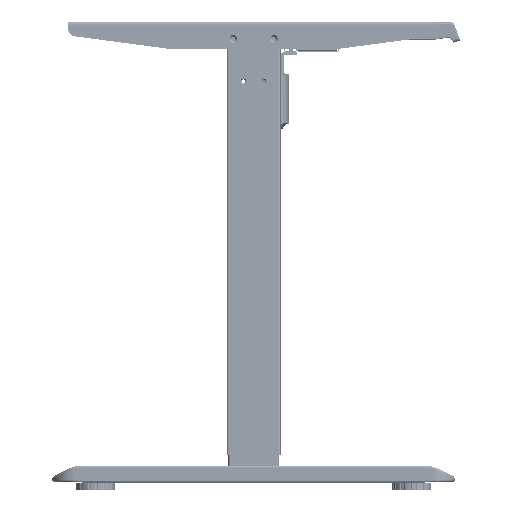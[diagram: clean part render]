
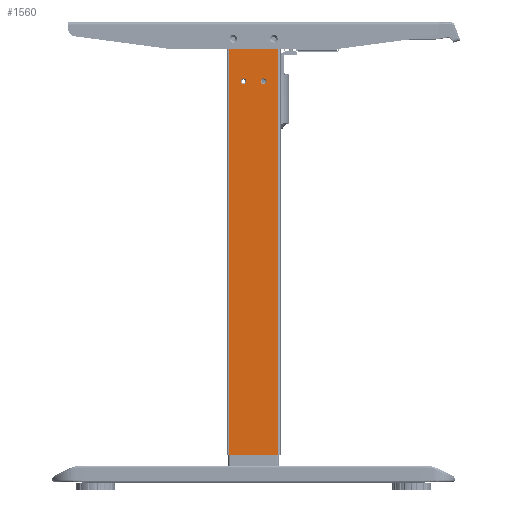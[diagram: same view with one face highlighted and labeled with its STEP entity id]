
A CAD part, front view. The second image highlights one B-rep face of the part: STEP entity #1560.
In plain terms, the highlighted planar face has unit normal (0, -1, 0).
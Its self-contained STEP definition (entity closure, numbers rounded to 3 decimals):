
#204=CARTESIAN_POINT('Vertex',(-19.25,-25.,-80.)) ;
#207=CARTESIAN_POINT('Axis2P3D Location',(-15.,-25.,-80.)) ;
#211=CARTESIAN_POINT('Vertex',(-10.75,-25.,-80.)) ;
#238=CARTESIAN_POINT('Axis2P3D Location',(-15.,-25.,-80.)) ;
#398=CARTESIAN_POINT('Line Origine',(37.,-25.,-302.5)) ;
#402=CARTESIAN_POINT('Vertex',(37.,-25.,0.)) ;
#404=CARTESIAN_POINT('Vertex',(37.,-25.,-635.)) ;
#438=CARTESIAN_POINT('Line Origine',(0.,-25.,0.)) ;
#442=CARTESIAN_POINT('Vertex',(-37.,-25.,0.)) ;
#526=CARTESIAN_POINT('Line Origine',(-37.,-25.,-302.5)) ;
#530=CARTESIAN_POINT('Vertex',(-37.,-25.,-635.)) ;
#557=CARTESIAN_POINT('Line Origine',(0.,-25.,-635.)) ;
#646=CARTESIAN_POINT('Vertex',(19.25,-25.,-80.)) ;
#649=CARTESIAN_POINT('Axis2P3D Location',(15.,-25.,-80.)) ;
#653=CARTESIAN_POINT('Vertex',(10.75,-25.,-80.)) ;
#673=CARTESIAN_POINT('Axis2P3D Location',(15.,-25.,-80.)) ;
#1437=CARTESIAN_POINT('Vertex',(25.5,-25.,-17.)) ;
#1440=CARTESIAN_POINT('Axis2P3D Location',(30.,-25.,-17.)) ;
#1444=CARTESIAN_POINT('Vertex',(34.5,-25.,-17.)) ;
#1464=CARTESIAN_POINT('Axis2P3D Location',(30.,-25.,-17.)) ;
#1519=CARTESIAN_POINT('Axis2P3D Location',(40.,-25.,0.)) ;
#1530=CARTESIAN_POINT('Axis2P3D Location',(-30.,-25.,-17.)) ;
#1534=CARTESIAN_POINT('Vertex',(-34.5,-25.,-17.)) ;
#1536=CARTESIAN_POINT('Vertex',(-25.5,-25.,-17.)) ;
#1539=CARTESIAN_POINT('Axis2P3D Location',(-30.,-25.,-17.)) ;
#208=DIRECTION('Axis2P3D Direction',(0.,-1.,0.)) ;
#239=DIRECTION('Axis2P3D Direction',(0.,-1.,0.)) ;
#399=DIRECTION('Vector Direction',(0.,0.,-1.)) ;
#439=DIRECTION('Vector Direction',(-1.,0.,0.)) ;
#527=DIRECTION('Vector Direction',(0.,0.,-1.)) ;
#558=DIRECTION('Vector Direction',(1.,0.,0.)) ;
#650=DIRECTION('Axis2P3D Direction',(0.,-1.,0.)) ;
#674=DIRECTION('Axis2P3D Direction',(-0.,-1.,-0.)) ;
#1441=DIRECTION('Axis2P3D Direction',(-0.,-1.,0.)) ;
#1465=DIRECTION('Axis2P3D Direction',(0.,-1.,-0.)) ;
#1520=DIRECTION('Axis2P3D Direction',(-0.,-1.,-0.)) ;
#1521=DIRECTION('Axis2P3D XDirection',(-1.,0.,0.)) ;
#1531=DIRECTION('Axis2P3D Direction',(-0.,-1.,-0.)) ;
#1540=DIRECTION('Axis2P3D Direction',(-0.,-1.,-0.)) ;
#209=AXIS2_PLACEMENT_3D('Circle Axis2P3D',#207,#208,$) ;
#240=AXIS2_PLACEMENT_3D('Circle Axis2P3D',#238,#239,$) ;
#651=AXIS2_PLACEMENT_3D('Circle Axis2P3D',#649,#650,$) ;
#675=AXIS2_PLACEMENT_3D('Circle Axis2P3D',#673,#674,$) ;
#1442=AXIS2_PLACEMENT_3D('Circle Axis2P3D',#1440,#1441,$) ;
#1466=AXIS2_PLACEMENT_3D('Circle Axis2P3D',#1464,#1465,$) ;
#1522=AXIS2_PLACEMENT_3D('Plane Axis2P3D',#1519,#1520,#1521) ;
#1532=AXIS2_PLACEMENT_3D('Circle Axis2P3D',#1530,#1531,$) ;
#1541=AXIS2_PLACEMENT_3D('Circle Axis2P3D',#1539,#1540,$) ;
#1525=ORIENTED_EDGE('',*,*,#406,.F.) ;
#1526=ORIENTED_EDGE('',*,*,#444,.F.) ;
#1527=ORIENTED_EDGE('',*,*,#532,.T.) ;
#1528=ORIENTED_EDGE('',*,*,#561,.T.) ;
#1545=ORIENTED_EDGE('',*,*,#1538,.F.) ;
#1546=ORIENTED_EDGE('',*,*,#1543,.F.) ;
#1549=ORIENTED_EDGE('',*,*,#1468,.F.) ;
#1550=ORIENTED_EDGE('',*,*,#1446,.F.) ;
#1553=ORIENTED_EDGE('',*,*,#655,.F.) ;
#1554=ORIENTED_EDGE('',*,*,#677,.F.) ;
#1557=ORIENTED_EDGE('',*,*,#213,.F.) ;
#1558=ORIENTED_EDGE('',*,*,#242,.F.) ;
#1547=FACE_BOUND('',#1544,.T.) ;
#1551=FACE_BOUND('',#1548,.T.) ;
#1555=FACE_BOUND('',#1552,.T.) ;
#1559=FACE_BOUND('',#1556,.T.) ;
#400=VECTOR('Line Direction',#399,1.) ;
#440=VECTOR('Line Direction',#439,1.) ;
#528=VECTOR('Line Direction',#527,1.) ;
#559=VECTOR('Line Direction',#558,1.) ;
#1560=ADVANCED_FACE('\X2\96F64EF651E04F554F53\X0\',(#1529,#1547,#1551,#1555,#1559),#1523,.T.) ;
#210=CIRCLE('generated circle',#209,4.25) ;
#241=CIRCLE('generated circle',#240,4.25) ;
#652=CIRCLE('generated circle',#651,4.25) ;
#676=CIRCLE('generated circle',#675,4.25) ;
#1443=CIRCLE('generated circle',#1442,4.5) ;
#1467=CIRCLE('generated circle',#1466,4.5) ;
#1533=CIRCLE('generated circle',#1532,4.5) ;
#1542=CIRCLE('generated circle',#1541,4.5) ;
#213=EDGE_CURVE('',#205,#212,#210,.T.) ;
#242=EDGE_CURVE('',#212,#205,#241,.T.) ;
#406=EDGE_CURVE('',#403,#405,#401,.T.) ;
#444=EDGE_CURVE('',#443,#403,#441,.F.) ;
#532=EDGE_CURVE('',#443,#531,#529,.T.) ;
#561=EDGE_CURVE('',#531,#405,#560,.T.) ;
#655=EDGE_CURVE('',#647,#654,#652,.T.) ;
#677=EDGE_CURVE('',#654,#647,#676,.T.) ;
#1446=EDGE_CURVE('',#1438,#1445,#1443,.T.) ;
#1468=EDGE_CURVE('',#1445,#1438,#1467,.T.) ;
#1538=EDGE_CURVE('',#1535,#1537,#1533,.T.) ;
#1543=EDGE_CURVE('',#1537,#1535,#1542,.T.) ;
#1524=EDGE_LOOP('',(#1525,#1526,#1527,#1528)) ;
#1544=EDGE_LOOP('',(#1545,#1546)) ;
#1548=EDGE_LOOP('',(#1549,#1550)) ;
#1552=EDGE_LOOP('',(#1553,#1554)) ;
#1556=EDGE_LOOP('',(#1557,#1558)) ;
#1529=FACE_OUTER_BOUND('',#1524,.T.) ;
#401=LINE('Line',#398,#400) ;
#441=LINE('Line',#438,#440) ;
#529=LINE('Line',#526,#528) ;
#560=LINE('Line',#557,#559) ;
#1523=PLANE('',#1522) ;
#205=VERTEX_POINT('',#204) ;
#212=VERTEX_POINT('',#211) ;
#403=VERTEX_POINT('',#402) ;
#405=VERTEX_POINT('',#404) ;
#443=VERTEX_POINT('',#442) ;
#531=VERTEX_POINT('',#530) ;
#647=VERTEX_POINT('',#646) ;
#654=VERTEX_POINT('',#653) ;
#1438=VERTEX_POINT('',#1437) ;
#1445=VERTEX_POINT('',#1444) ;
#1535=VERTEX_POINT('',#1534) ;
#1537=VERTEX_POINT('',#1536) ;
